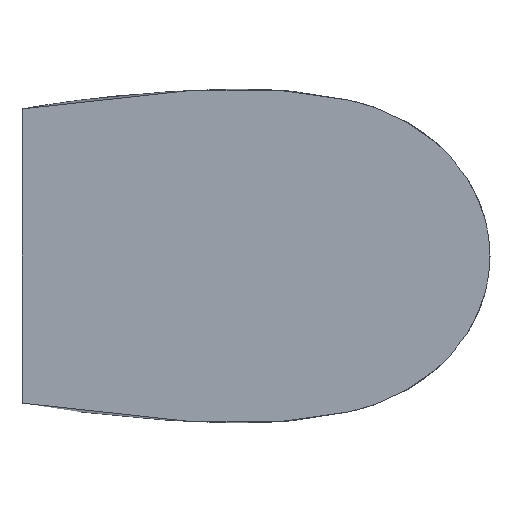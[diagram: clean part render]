
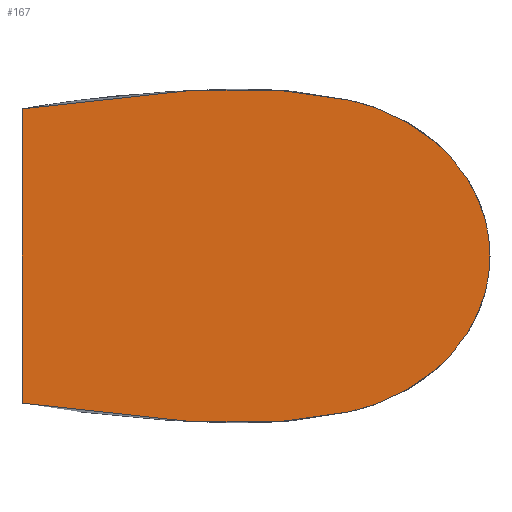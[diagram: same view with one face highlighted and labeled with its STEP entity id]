
A CAD part, left-side view. The second image highlights one B-rep face of the part: STEP entity #167.
In plain terms, the highlighted planar face has unit normal (-1, 0, 0).
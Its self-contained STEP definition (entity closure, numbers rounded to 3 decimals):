
#2=DIRECTION('',(0.,0.,-1.));
#3=VECTOR('',#2,1.905);
#4=CARTESIAN_POINT('',(-9.,-0.3,0.952));
#5=LINE('',#4,#3);
#10=CARTESIAN_POINT('',(-9.,-0.3,0.952));
#11=CARTESIAN_POINT('',(-9.,-0.424,0.974));
#12=CARTESIAN_POINT('',(-9.,-0.668,1.011));
#13=CARTESIAN_POINT('',(-9.,-0.972,1.044));
#14=CARTESIAN_POINT('',(-9.,-1.219,1.062));
#15=CARTESIAN_POINT('',(-9.,-1.376,1.07));
#16=CARTESIAN_POINT('',(-9.,-1.504,1.075));
#17=CARTESIAN_POINT('',(-9.,-1.601,1.077));
#18=CARTESIAN_POINT('',(-9.,-1.7,1.081));
#19=CARTESIAN_POINT('',(-9.,-1.846,1.08));
#20=CARTESIAN_POINT('',(-9.,-2.045,1.07));
#21=CARTESIAN_POINT('',(-9.,-2.297,1.037));
#22=CARTESIAN_POINT('',(-9.,-2.553,0.982));
#23=CARTESIAN_POINT('',(-9.,-2.797,0.874));
#24=CARTESIAN_POINT('',(-9.,-3.016,0.716));
#25=CARTESIAN_POINT('',(-9.,-3.191,0.509));
#26=CARTESIAN_POINT('',(-9.,-3.304,0.263));
#27=CARTESIAN_POINT('',(-9.,-3.329,0.087));
#28=CARTESIAN_POINT('',(-9.,-3.329,0.));
#30=CARTESIAN_POINT('',(-9.,-0.3,-0.952));
#31=CARTESIAN_POINT('',(-9.,-0.424,-0.974));
#32=CARTESIAN_POINT('',(-9.,-0.668,-1.011));
#33=CARTESIAN_POINT('',(-9.,-0.972,-1.044));
#34=CARTESIAN_POINT('',(-9.,-1.219,-1.062));
#35=CARTESIAN_POINT('',(-9.,-1.376,-1.07));
#36=CARTESIAN_POINT('',(-9.,-1.504,-1.075));
#37=CARTESIAN_POINT('',(-9.,-1.601,-1.077));
#38=CARTESIAN_POINT('',(-9.,-1.7,-1.081));
#39=CARTESIAN_POINT('',(-9.,-1.846,-1.08));
#40=CARTESIAN_POINT('',(-9.,-2.045,-1.07));
#41=CARTESIAN_POINT('',(-9.,-2.297,-1.037));
#42=CARTESIAN_POINT('',(-9.,-2.553,-0.982));
#43=CARTESIAN_POINT('',(-9.,-2.797,-0.874));
#44=CARTESIAN_POINT('',(-9.,-3.016,-0.716));
#45=CARTESIAN_POINT('',(-9.,-3.191,-0.509));
#46=CARTESIAN_POINT('',(-9.,-3.304,-0.263));
#47=CARTESIAN_POINT('',(-9.,-3.329,-0.087));
#48=CARTESIAN_POINT('',(-9.,-3.329,0.));
#132=CARTESIAN_POINT('',(-9.,-0.3,0.952));
#133=CARTESIAN_POINT('',(-9.,-0.3,-0.952));
#134=VERTEX_POINT('',#132);
#135=VERTEX_POINT('',#133);
#136=VERTEX_POINT('',#28);
#155=CARTESIAN_POINT('',(-9.,0.,0.));
#156=DIRECTION('',(1.,0.,0.));
#157=DIRECTION('',(0.,0.,-1.));
#158=AXIS2_PLACEMENT_3D('',#155,#156,#157);
#159=PLANE('',#158);
#160=ORIENTED_EDGE('',*,*,#142,.F.);
#162=ORIENTED_EDGE('',*,*,#161,.T.);
#164=ORIENTED_EDGE('',*,*,#163,.F.);
#165=EDGE_LOOP('',(#160,#162,#164));
#166=FACE_OUTER_BOUND('',#165,.F.);
#167=ADVANCED_FACE('',(#166),#159,.F.);
#29=B_SPLINE_CURVE_WITH_KNOTS('',3,(#10,#11,#12,#13,#14,#15,#16,#17,#18,#19,#20,
#21,#22,#23,#24,#25,#26,#27,#28),.UNSPECIFIED.,.F.,.F.,(4,1,1,1,1,1,1,1,1,1,1,1,
1,1,1,1,4),(0.,0.114,0.228,0.285,
0.342,0.37,0.399,0.427,
0.456,0.524,0.592,0.66,
0.728,0.796,0.864,0.932,1.),
.UNSPECIFIED.);
#49=B_SPLINE_CURVE_WITH_KNOTS('',3,(#30,#31,#32,#33,#34,#35,#36,#37,#38,#39,#40,
#41,#42,#43,#44,#45,#46,#47,#48),.UNSPECIFIED.,.F.,.F.,(4,1,1,1,1,1,1,1,1,1,1,1,
1,1,1,1,4),(0.,0.114,0.228,0.285,
0.342,0.37,0.399,0.427,
0.456,0.524,0.592,0.66,
0.728,0.796,0.864,0.932,1.),
.UNSPECIFIED.);
#142=EDGE_CURVE('',#134,#135,#5,.T.);
#161=EDGE_CURVE('',#134,#136,#29,.T.);
#163=EDGE_CURVE('',#135,#136,#49,.T.);
